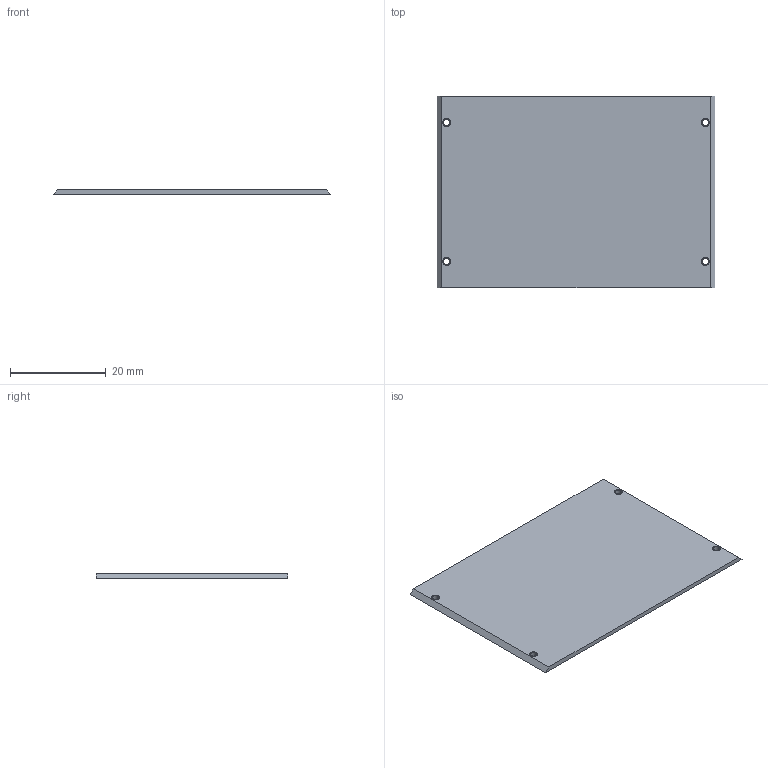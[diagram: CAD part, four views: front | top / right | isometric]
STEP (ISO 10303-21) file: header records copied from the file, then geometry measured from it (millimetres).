
FILE_DESCRIPTION((''),'2;1');
FILE_NAME('CASE-B','2023-06-07T15:01:14',('lamadaemon'),(''),'CREO PARAMETRIC BY PTC INC, 2022073','CREO PARAMETRIC BY PTC INC, 2022073','');
FILE_SCHEMA(('CONFIG_CONTROL_DESIGN'));
Length unit declared in the file: millimetre
Products named in the file (1): CASE-B
Bounding box: 58 x 40 x 1 mm (x, y, z)
Volume: 2274.7 mm3; surface area: 4814.2 mm2
Topology: 1 solids, 5 shells, 22 faces, 60 edges, 40 vertices
Faces by surface type: cylinder 16, plane 6
Entity records: 767 total; most frequent: DIRECTION 138, CARTESIAN_POINT 123, ORIENTED_EDGE 104, EDGE_CURVE 60, AXIS2_PLACEMENT_3D 55, VERTEX_POINT 40, CIRCLE 32, EDGE_LOOP 30
